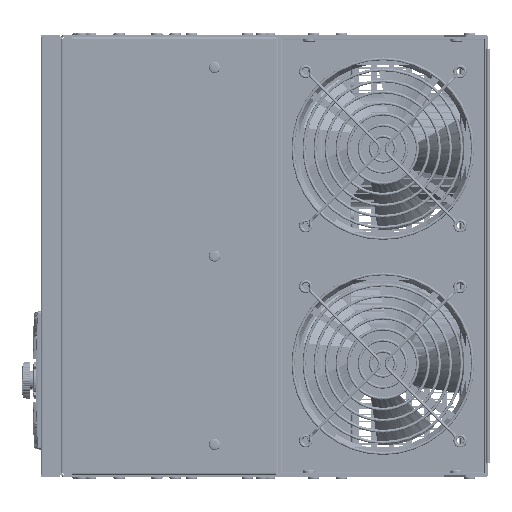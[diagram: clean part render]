
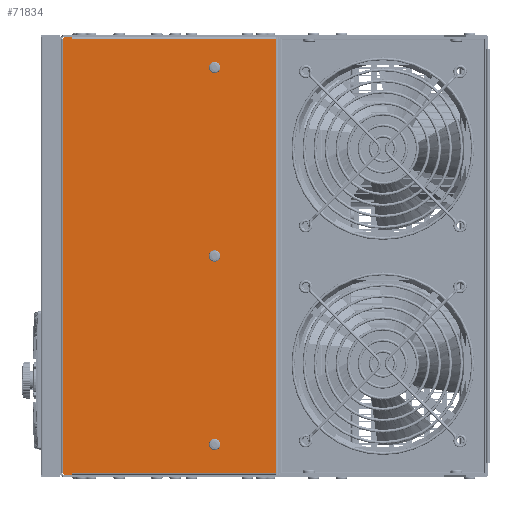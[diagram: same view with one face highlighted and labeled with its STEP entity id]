
A CAD part, front view. The second image highlights one B-rep face of the part: STEP entity #71834.
In plain terms, the highlighted planar face has unit normal (0, -1, 0).
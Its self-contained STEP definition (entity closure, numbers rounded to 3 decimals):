
#64812=DIRECTION('',(0.,0.,1.));
#64813=VECTOR('',#64812,294.2);
#64814=CARTESIAN_POINT('',(-45.7,-309.5,-147.1));
#64815=LINE('',#64814,#64813);
#65132=DIRECTION('',(-1.,0.,0.));
#65133=VECTOR('',#65132,138.6);
#65134=CARTESIAN_POINT('',(-45.7,-309.5,147.1));
#65135=LINE('',#65134,#65133);
#65214=DIRECTION('',(-1.,0.,0.));
#65215=VECTOR('',#65214,5.);
#65216=CARTESIAN_POINT('',(-184.3,-309.5,-148.8));
#65217=LINE('',#65216,#65215);
#65218=DIRECTION('',(-0.707,0.,0.707));
#65219=VECTOR('',#65218,1.98);
#65220=CARTESIAN_POINT('',(-189.3,-309.5,-148.8));
#65221=LINE('',#65220,#65219);
#65222=DIRECTION('',(0.707,0.,0.707));
#65223=VECTOR('',#65222,1.98);
#65224=CARTESIAN_POINT('',(-190.7,-309.5,
147.4));
#65225=LINE('',#65224,#65223);
#65226=DIRECTION('',(1.,0.,0.));
#65227=VECTOR('',#65226,5.);
#65228=CARTESIAN_POINT('',(-189.3,-309.5,148.8));
#65229=LINE('',#65228,#65227);
#65230=DIRECTION('',(0.,0.,-1.));
#65231=VECTOR('',#65230,1.7);
#65232=CARTESIAN_POINT('',(-184.3,-309.5,148.8));
#65233=LINE('',#65232,#65231);
#65234=CARTESIAN_POINT('',(-87.7,-309.5,0.));
#65235=DIRECTION('',(0.,-1.,0.));
#65236=DIRECTION('',(0.,0.,-1.));
#65237=AXIS2_PLACEMENT_3D('',#65234,#65235,#65236);
#65239=CARTESIAN_POINT('',(-87.7,-309.5,0.));
#65240=DIRECTION('',(0.,-1.,0.));
#65241=DIRECTION('',(0.,0.,1.));
#65242=AXIS2_PLACEMENT_3D('',#65239,#65240,#65241);
#65244=CARTESIAN_POINT('',(-87.7,-309.5,-128.));
#65245=DIRECTION('',(0.,-1.,0.));
#65246=DIRECTION('',(0.,0.,-1.));
#65247=AXIS2_PLACEMENT_3D('',#65244,#65245,#65246);
#65249=CARTESIAN_POINT('',(-87.7,-309.5,-128.));
#65250=DIRECTION('',(0.,-1.,0.));
#65251=DIRECTION('',(0.,0.,1.));
#65252=AXIS2_PLACEMENT_3D('',#65249,#65250,#65251);
#65254=CARTESIAN_POINT('',(-87.7,-309.5,128.));
#65255=DIRECTION('',(0.,-1.,0.));
#65256=DIRECTION('',(0.,0.,-1.));
#65257=AXIS2_PLACEMENT_3D('',#65254,#65255,#65256);
#65259=CARTESIAN_POINT('',(-87.7,-309.5,128.));
#65260=DIRECTION('',(0.,-1.,0.));
#65261=DIRECTION('',(0.,0.,1.));
#65262=AXIS2_PLACEMENT_3D('',#65259,#65260,#65261);
#65268=DIRECTION('',(1.,0.,0.));
#65269=VECTOR('',#65268,138.6);
#65270=CARTESIAN_POINT('',(-184.3,-309.5,-147.1));
#65271=LINE('',#65270,#65269);
#65545=DIRECTION('',(0.,0.,-1.));
#65546=VECTOR('',#65545,294.8);
#65547=CARTESIAN_POINT('',(-190.7,-309.5,
147.4));
#65548=LINE('',#65547,#65546);
#65779=DIRECTION('',(0.,0.,1.));
#65780=VECTOR('',#65779,1.7);
#65781=CARTESIAN_POINT('',(-184.3,-309.5,-148.8));
#65782=LINE('',#65781,#65780);
#69289=CARTESIAN_POINT('',(-45.7,-309.5,-147.1));
#69290=VERTEX_POINT('',#69289);
#69291=CARTESIAN_POINT('',(-45.7,-309.5,147.1));
#69292=VERTEX_POINT('',#69291);
#69299=CARTESIAN_POINT('',(-184.3,-309.5,-147.1));
#69300=VERTEX_POINT('',#69299);
#69387=CARTESIAN_POINT('',(-184.3,-309.5,147.1));
#69388=VERTEX_POINT('',#69387);
#69389=CARTESIAN_POINT('',(-184.3,-309.5,-148.8));
#69390=VERTEX_POINT('',#69389);
#69391=CARTESIAN_POINT('',(-189.3,-309.5,-148.8));
#69392=VERTEX_POINT('',#69391);
#69393=CARTESIAN_POINT('',(-190.7,-309.5,
-147.4));
#69394=VERTEX_POINT('',#69393);
#69395=CARTESIAN_POINT('',(-190.7,-309.5,
147.4));
#69396=VERTEX_POINT('',#69395);
#69397=CARTESIAN_POINT('',(-189.3,-309.5,148.8));
#69398=VERTEX_POINT('',#69397);
#69399=CARTESIAN_POINT('',(-184.3,-309.5,148.8));
#69400=VERTEX_POINT('',#69399);
#69401=CARTESIAN_POINT('',(-87.7,-309.5,-2.15));
#69402=CARTESIAN_POINT('',(-87.7,-309.5,2.15));
#69403=VERTEX_POINT('',#69401);
#69404=VERTEX_POINT('',#69402);
#69405=CARTESIAN_POINT('',(-87.7,-309.5,-130.15));
#69406=CARTESIAN_POINT('',(-87.7,-309.5,-125.85));
#69407=VERTEX_POINT('',#69405);
#69408=VERTEX_POINT('',#69406);
#69409=CARTESIAN_POINT('',(-87.7,-309.5,125.85));
#69410=CARTESIAN_POINT('',(-87.7,-309.5,130.15));
#69411=VERTEX_POINT('',#69409);
#69412=VERTEX_POINT('',#69410);
#71792=CARTESIAN_POINT('',(98.1,-309.5,150.));
#71793=DIRECTION('',(0.,-1.,0.));
#71794=DIRECTION('',(0.,0.,1.));
#71795=AXIS2_PLACEMENT_3D('',#71792,#71793,#71794);
#71796=PLANE('',#71795);
#71798=ORIENTED_EDGE('',*,*,#71797,.F.);
#71800=ORIENTED_EDGE('',*,*,#71799,.F.);
#71802=ORIENTED_EDGE('',*,*,#71801,.T.);
#71804=ORIENTED_EDGE('',*,*,#71803,.T.);
#71806=ORIENTED_EDGE('',*,*,#71805,.F.);
#71808=ORIENTED_EDGE('',*,*,#71807,.T.);
#71810=ORIENTED_EDGE('',*,*,#71809,.T.);
#71811=ORIENTED_EDGE('',*,*,#71782,.T.);
#71812=ORIENTED_EDGE('',*,*,#71687,.F.);
#71813=ORIENTED_EDGE('',*,*,#71343,.F.);
#71814=EDGE_LOOP('',(#71798,#71800,#71802,#71804,#71806,#71808,#71810,#71811,
#71812,#71813));
#71815=FACE_OUTER_BOUND('',#71814,.F.);
#71817=ORIENTED_EDGE('',*,*,#71816,.T.);
#71819=ORIENTED_EDGE('',*,*,#71818,.T.);
#71820=EDGE_LOOP('',(#71817,#71819));
#71821=FACE_BOUND('',#71820,.F.);
#71823=ORIENTED_EDGE('',*,*,#71822,.T.);
#71825=ORIENTED_EDGE('',*,*,#71824,.T.);
#71826=EDGE_LOOP('',(#71823,#71825));
#71827=FACE_BOUND('',#71826,.F.);
#71829=ORIENTED_EDGE('',*,*,#71828,.T.);
#71831=ORIENTED_EDGE('',*,*,#71830,.T.);
#71832=EDGE_LOOP('',(#71829,#71831));
#71833=FACE_BOUND('',#71832,.F.);
#65238=CIRCLE('',#65237,2.15);
#65243=CIRCLE('',#65242,2.15);
#65248=CIRCLE('',#65247,2.15);
#65253=CIRCLE('',#65252,2.15);
#65258=CIRCLE('',#65257,2.15);
#65263=CIRCLE('',#65262,2.15);
#71343=EDGE_CURVE('',#69290,#69292,#64815,.T.);
#71687=EDGE_CURVE('',#69292,#69388,#65135,.T.);
#71782=EDGE_CURVE('',#69400,#69388,#65233,.T.);
#71797=EDGE_CURVE('',#69300,#69290,#65271,.T.);
#71799=EDGE_CURVE('',#69390,#69300,#65782,.T.);
#71801=EDGE_CURVE('',#69390,#69392,#65217,.T.);
#71803=EDGE_CURVE('',#69392,#69394,#65221,.T.);
#71805=EDGE_CURVE('',#69396,#69394,#65548,.T.);
#71807=EDGE_CURVE('',#69396,#69398,#65225,.T.);
#71809=EDGE_CURVE('',#69398,#69400,#65229,.T.);
#71816=EDGE_CURVE('',#69403,#69404,#65238,.T.);
#71818=EDGE_CURVE('',#69404,#69403,#65243,.T.);
#71822=EDGE_CURVE('',#69407,#69408,#65248,.T.);
#71824=EDGE_CURVE('',#69408,#69407,#65253,.T.);
#71828=EDGE_CURVE('',#69411,#69412,#65258,.T.);
#71830=EDGE_CURVE('',#69412,#69411,#65263,.T.);
#71834=ADVANCED_FACE('',(#71815,#71821,#71827,#71833),#71796,.T.);
